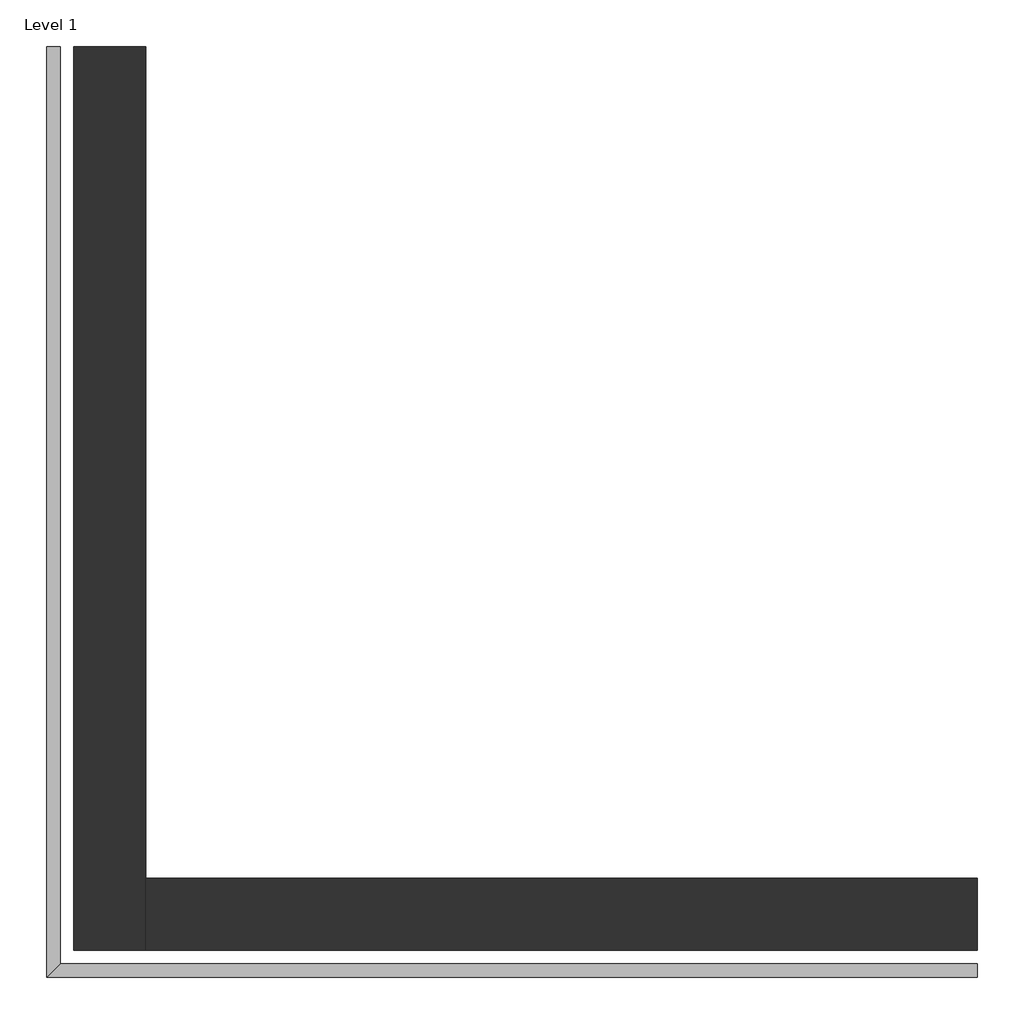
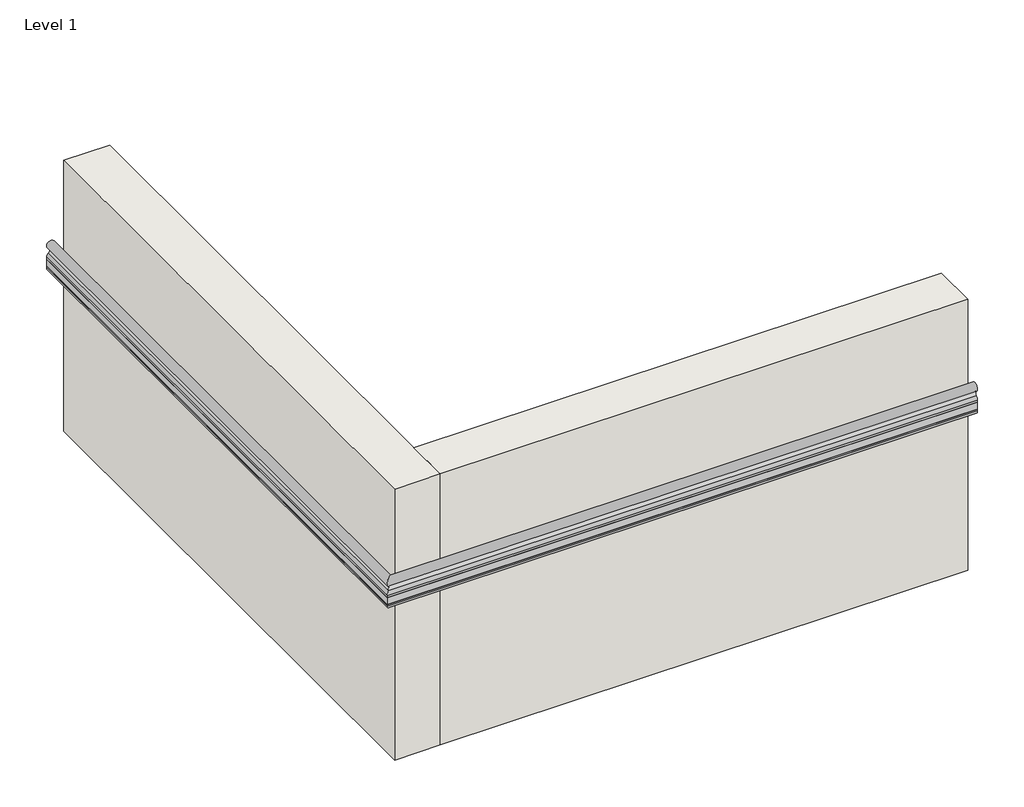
# One storey: 2 walls, 1 railing.
"""IFC4 building model written with IfcOpenShell, lengths in millimetres."""

from ifc_helpers import new_model, si_unit, origin, origin_with_axes, place, context, project, spatial, polyline, outline, extrude, faceted_brep, transform, mapped, element, save
from components import railing_be0d8883

model = new_model("IFC4")

# Units and contexts
model_context = context("Model", 3, world=origin())
ifc_project = project(units=[si_unit("LENGTHUNIT", "METRE", prefix="MILLI")], contexts=[model_context])

# Site, building, storey
site = spatial("IfcSite", under=ifc_project)
building = spatial("IfcBuilding", under=site)
storey = spatial("IfcBuildingStorey", under=building, Name="Level 1", Elevation=0.0)

# Railing
placement = place(None, origin())
railing_shape = railing_be0d8883(model_context)
element("IfcRailing", 1, ObjectType="Handrail-InPro-HR12-C-Prism-Metal_Bracket-Concrete", at=placement, inside=storey, context=model_context, shape_type="MappedRepresentation", body=[
    mapped(railing_shape, transform((0.0, 0.0, 0.0), x_axis=(1.0, 0.0, 0.0), y_axis=(0.0, 1.0, 0.0), z_axis=(0.0, 0.0, 1.0))),
])

# Walls
element("IfcWall", 2, ObjectType="Wall 1", at=placement, inside=storey, context=model_context, shape_type="Brep", body=[
    faceted_brep([(-5330.1382624, 4334.5443008, 0.0), (-5330.1382624, 1794.5443008, 0.0), (-5330.1382624, 1794.5443008, 1270.0), (-5330.1382624, 4334.5443008, 1270.0), (-5126.9382624, 4334.5443008, 0.0), (-5126.9382624, 4334.5443008, 1270.0), (-5126.9382624, 1997.7443008, 1270.0), (-5126.9382624, 1794.5443008, 1270.0), (-5126.9382624, 1794.5443008, 0.0), (-5126.9382624, 1997.7443008, 0.0)], [[[0, 1, 2, 3]], [[4, 5, 6, 7, 8, 9]], [[1, 0, 4, 9, 8]], [[3, 2, 7, 6, 5]], [[0, 3, 5, 4]], [[2, 1, 8, 7]]]),
])
element("IfcWall", 3, ObjectType="Wall 1", at=placement, inside=storey, context=model_context, shape_type="SweptSolid", body=[
    extrude(outline(polyline([(-5126.9382624, 1997.7443008), (-2790.1382624, 1997.7443008), (-2790.1382624, 1794.5443008), (-5126.9382624, 1794.5443008), (-5126.9382624, 1997.7443008)])), origin_with_axes(), (0.0, 0.0, 1.0), 1270.0),
])

save(model, "model.ifc")
